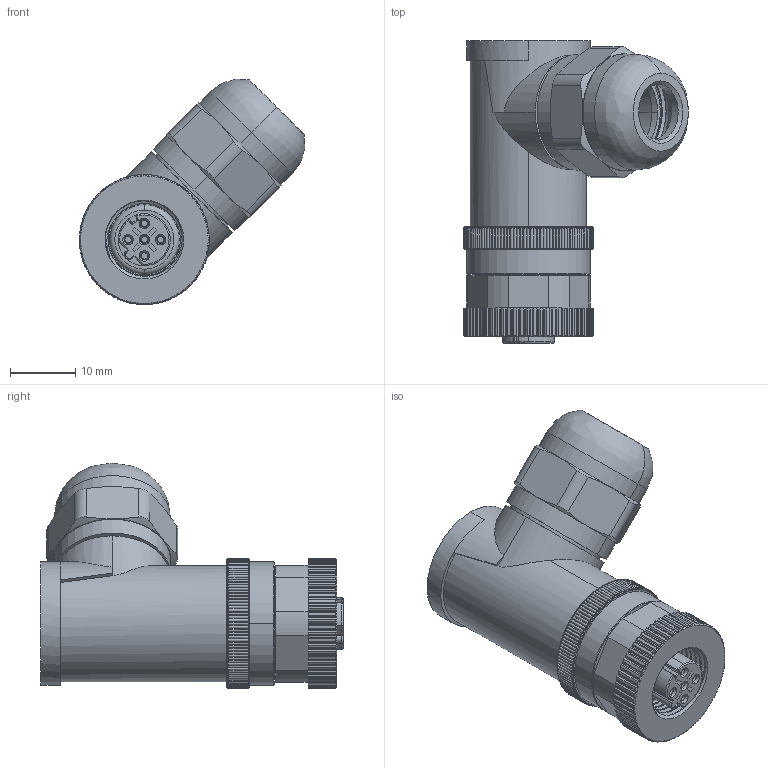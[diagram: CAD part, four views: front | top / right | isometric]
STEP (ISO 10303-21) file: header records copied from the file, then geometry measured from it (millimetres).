
FILE_DESCRIPTION((''),'2;1');
FILE_NAME('XC-M12P-RWK-PG9','2025-06-23T16:17:53',('lyj'),(''),'CREO PARAMETRIC BY PTC INC, 2019010','CREO PARAMETRIC BY PTC INC, 2019010','');
FILE_SCHEMA(('CONFIG_CONTROL_DESIGN'));
Length unit declared in the file: millimetre
Products named in the file (1): XC-M12P-RWK-PG9
Bounding box: 34.66 x 46.5 x 34.66 mm (x, y, z)
Volume: 10442.7 mm3; surface area: 13363.3 mm2
Topology: 1 solids, 11 shells, 1787 faces, 4705 edges, 2996 vertices
Faces by surface type: cylinder 849, plane 435, cone 383, bspline 62, extrusion 29, torus 29
Entity records: 86820 total; most frequent: CARTESIAN_POINT 44404, ORIENTED_EDGE 9410, DIRECTION 8211, EDGE_CURVE 4705, AXIS2_PLACEMENT_3D 3259, VERTEX_POINT 2996, EDGE_LOOP 1887, FACE_OUTER_BOUND 1787
